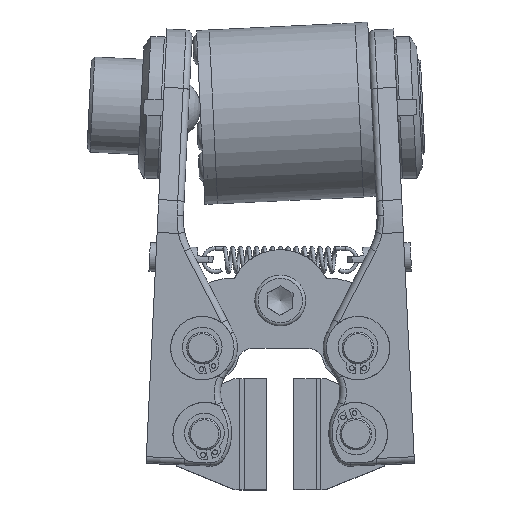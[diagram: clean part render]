
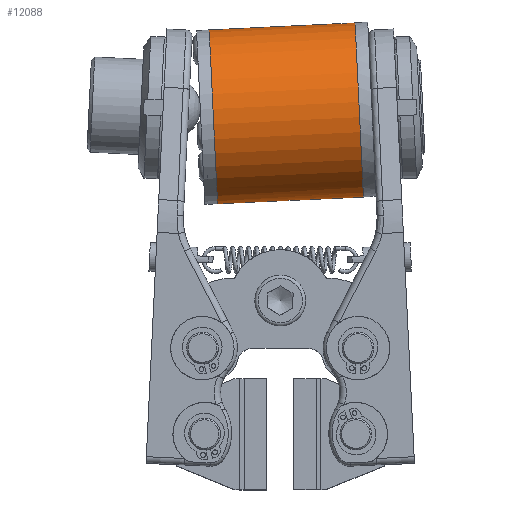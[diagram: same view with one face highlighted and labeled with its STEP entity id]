
A CAD part, top view. The second image highlights one B-rep face of the part: STEP entity #12088.
In plain terms, the highlighted cylindrical face has radius 27.5 mm (diameter 55 mm), a full revolution.
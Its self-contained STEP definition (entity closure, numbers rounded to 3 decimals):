
#1156=FACE_OUTER_BOUND('',#1839,.T.);
#1839=EDGE_LOOP('',(#8503,#8504,#8505,#8506,#8507,#8508,#8509,#8510));
#2612=LINE('',#18455,#3462);
#3462=VECTOR('',#14617,27.5);
#4328=CIRCLE('',#12857,27.5);
#4329=CIRCLE('',#12858,27.5);
#4330=CIRCLE('',#12859,27.5);
#4336=CIRCLE('',#12870,27.5);
#4337=CIRCLE('',#12871,27.5);
#4338=CIRCLE('',#12872,27.5);
#5177=VERTEX_POINT('',#18382);
#5178=VERTEX_POINT('',#18384);
#5179=VERTEX_POINT('',#18386);
#5187=VERTEX_POINT('',#18408);
#5188=VERTEX_POINT('',#18409);
#5189=VERTEX_POINT('',#18411);
#6445=EDGE_CURVE('',#5178,#5177,#4328,.T.);
#6446=EDGE_CURVE('',#5179,#5178,#4329,.T.);
#6447=EDGE_CURVE('',#5177,#5179,#4330,.T.);
#6455=EDGE_CURVE('',#5187,#5188,#4336,.T.);
#6456=EDGE_CURVE('',#5188,#5189,#4337,.T.);
#6457=EDGE_CURVE('',#5189,#5187,#4338,.T.);
#6480=EDGE_CURVE('',#5189,#5178,#2612,.T.);
#8503=ORIENTED_EDGE('',*,*,#6456,.F.);
#8504=ORIENTED_EDGE('',*,*,#6455,.F.);
#8505=ORIENTED_EDGE('',*,*,#6457,.F.);
#8506=ORIENTED_EDGE('',*,*,#6480,.T.);
#8507=ORIENTED_EDGE('',*,*,#6445,.T.);
#8508=ORIENTED_EDGE('',*,*,#6447,.T.);
#8509=ORIENTED_EDGE('',*,*,#6446,.T.);
#8510=ORIENTED_EDGE('',*,*,#6480,.F.);
#11822=CYLINDRICAL_SURFACE('',#12895,27.5);
#12088=ADVANCED_FACE('',(#1156),#11822,.T.);
#12857=AXIS2_PLACEMENT_3D('',#18385,#14528,#14529);
#12858=AXIS2_PLACEMENT_3D('',#18387,#14530,#14531);
#12859=AXIS2_PLACEMENT_3D('',#18388,#14532,#14533);
#12870=AXIS2_PLACEMENT_3D('',#18410,#14556,#14557);
#12871=AXIS2_PLACEMENT_3D('',#18412,#14558,#14559);
#12872=AXIS2_PLACEMENT_3D('',#18413,#14560,#14561);
#12895=AXIS2_PLACEMENT_3D('',#18454,#14615,#14616);
#14528=DIRECTION('center_axis',(0.999,0.048,0.));
#14529=DIRECTION('ref_axis',(-0.034,0.705,-0.708));
#14530=DIRECTION('center_axis',(0.999,0.048,0.));
#14531=DIRECTION('ref_axis',(-0.034,0.705,-0.708));
#14532=DIRECTION('center_axis',(0.999,0.048,0.));
#14533=DIRECTION('ref_axis',(-0.034,0.705,-0.708));
#14556=DIRECTION('center_axis',(0.999,0.048,0.));
#14557=DIRECTION('ref_axis',(-0.034,0.705,-0.708));
#14558=DIRECTION('center_axis',(0.999,0.048,0.));
#14559=DIRECTION('ref_axis',(-0.034,0.705,-0.708));
#14560=DIRECTION('center_axis',(0.999,0.048,0.));
#14561=DIRECTION('ref_axis',(-0.034,0.705,-0.708));
#14615=DIRECTION('center_axis',(0.999,0.048,0.));
#14616=DIRECTION('ref_axis',(-0.034,0.705,-0.708));
#14617=DIRECTION('',(-0.999,-0.048,0.));
#18382=CARTESIAN_POINT('',(-20.12,63.449,-19.423));
#18384=CARTESIAN_POINT('',(-20.123,63.494,19.468));
#18385=CARTESIAN_POINT('Origin',(-21.056,82.895,0.));
#18386=CARTESIAN_POINT('',(-21.99,102.295,-19.468));
#18387=CARTESIAN_POINT('Origin',(-21.056,82.895,0.));
#18388=CARTESIAN_POINT('Origin',(-21.056,82.895,0.));
#18408=CARTESIAN_POINT('',(26.081,60.362,-11.942));
#18409=CARTESIAN_POINT('',(23.957,104.506,-19.468));
#18410=CARTESIAN_POINT('Origin',(24.891,85.106,0.));
#18411=CARTESIAN_POINT('',(25.824,65.705,19.468));
#18412=CARTESIAN_POINT('Origin',(24.891,85.106,0.));
#18413=CARTESIAN_POINT('Origin',(24.891,85.106,0.));
#18454=CARTESIAN_POINT('Origin',(1.917,84.,0.));
#18455=CARTESIAN_POINT('',(2.851,64.6,19.468));
